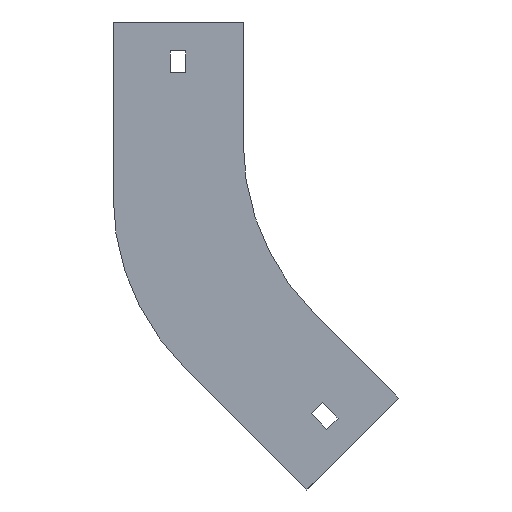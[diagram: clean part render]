
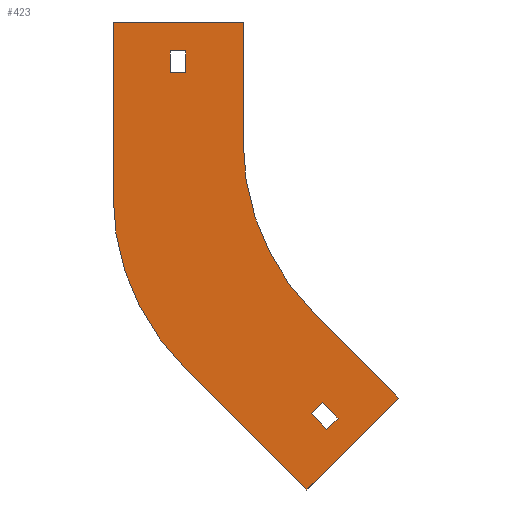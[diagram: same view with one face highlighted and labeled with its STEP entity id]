
A CAD part, front view. The second image highlights one B-rep face of the part: STEP entity #423.
In plain terms, the highlighted planar face has unit normal (0, -1, 0).
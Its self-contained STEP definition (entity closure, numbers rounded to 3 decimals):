
#4 = CARTESIAN_POINT ( 'NONE',  ( -130.25, 0., 29. ) ) ;
#8 = LINE ( 'NONE', #347, #936 ) ;
#25 = EDGE_CURVE ( 'NONE', #1284, #853, #1328, .T. ) ;
#27 = EDGE_CURVE ( 'NONE', #853, #913, #1342, .T. ) ;
#38 = CARTESIAN_POINT ( 'NONE',  ( -70.711, 0., -70.711 ) ) ;
#49 = VERTEX_POINT ( 'NONE', #688 ) ;
#66 = CARTESIAN_POINT ( 'NONE',  ( -54., 0., -22.368 ) ) ;
#90 = DIRECTION ( 'NONE',  ( 0., 0., -1. ) ) ;
#96 = LINE ( 'NONE', #532, #280 ) ;
#107 = DIRECTION ( 'NONE',  ( 0., -1., 0. ) ) ;
#110 = CARTESIAN_POINT ( 'NONE',  ( -130.25, 0., 29. ) ) ;
#118 = DIRECTION ( 'NONE',  ( 0., 0., -1. ) ) ;
#121 = ORIENTED_EDGE ( 'NONE', *, *, #403, .F. ) ;
#128 = LINE ( 'NONE', #681, #1025 ) ;
#154 = DIRECTION ( 'NONE',  ( 1., 0., 0. ) ) ;
#155 = CARTESIAN_POINT ( 'NONE',  ( -124.711, 0., -93.078 ) ) ;
#156 = VERTEX_POINT ( 'NONE', #1083 ) ;
#162 = AXIS2_PLACEMENT_3D ( 'NONE', #962, #425, #619 ) ;
#168 = VECTOR ( 'NONE', #485, 1000. ) ;
#183 = DIRECTION ( 'NONE',  ( 1., 0., 0. ) ) ;
#196 = ORIENTED_EDGE ( 'NONE', *, *, #210, .F. ) ;
#202 = CIRCLE ( 'NONE', #636, 100. ) ;
#210 = EDGE_CURVE ( 'NONE', #1107, #687, #8, .T. ) ;
#236 = CARTESIAN_POINT ( 'NONE',  ( -123.75, 0., 29. ) ) ;
#255 = FACE_BOUND ( 'NONE', #906, .T. ) ;
#260 = CARTESIAN_POINT ( 'NONE',  ( -73.539, 0., -144.25 ) ) ;
#280 = VECTOR ( 'NONE', #957, 1000. ) ;
#316 = ORIENTED_EDGE ( 'NONE', *, *, #1046, .T. ) ;
#332 = VERTEX_POINT ( 'NONE', #1274 ) ;
#341 = DIRECTION ( 'NONE',  ( 0., 0., 1. ) ) ;
#347 = CARTESIAN_POINT ( 'NONE',  ( -70.711, 0., -70.711 ) ) ;
#362 = DIRECTION ( 'NONE',  ( 0.707, 0., -0.707 ) ) ;
#371 = VERTEX_POINT ( 'NONE', #1073 ) ;
#376 = CARTESIAN_POINT ( 'NONE',  ( -71.595, 0., -112.607 ) ) ;
#383 = LINE ( 'NONE', #376, #168 ) ;
#399 = LINE ( 'NONE', #477, #758 ) ;
#403 = EDGE_CURVE ( 'NONE', #49, #371, #128, .T. ) ;
#408 = DIRECTION ( 'NONE',  ( 0., 0., 1. ) ) ;
#414 = VECTOR ( 'NONE', #1354, 1000. ) ;
#423 = ADVANCED_FACE ( 'NONE', ( #465, #552, #255 ), #868, .T. ) ;
#425 = DIRECTION ( 'NONE',  ( 0., -1., 0. ) ) ;
#441 = VERTEX_POINT ( 'NONE', #1098 ) ;
#444 = VECTOR ( 'NONE', #1101, 1000. ) ;
#445 = ORIENTED_EDGE ( 'NONE', *, *, #27, .F. ) ;
#447 = CARTESIAN_POINT ( 'NONE',  ( -123.75, 0., 38. ) ) ;
#449 = DIRECTION ( 'NONE',  ( 0., 0., 1. ) ) ;
#464 = ORIENTED_EDGE ( 'NONE', *, *, #849, .F. ) ;
#465 = FACE_BOUND ( 'NONE', #1047, .T. ) ;
#466 = CARTESIAN_POINT ( 'NONE',  ( -66.998, 0., -108.011 ) ) ;
#470 = ORIENTED_EDGE ( 'NONE', *, *, #1036, .F. ) ;
#477 = CARTESIAN_POINT ( 'NONE',  ( -154., 0., 50. ) ) ;
#484 = VECTOR ( 'NONE', #1319, 1000. ) ;
#485 = DIRECTION ( 'NONE',  ( 0.707, 0., -0.707 ) ) ;
#511 = LINE ( 'NONE', #852, #1362 ) ;
#512 = ORIENTED_EDGE ( 'NONE', *, *, #640, .F. ) ;
#514 = VERTEX_POINT ( 'NONE', #260 ) ;
#532 = CARTESIAN_POINT ( 'NONE',  ( -73.539, 0., -144.25 ) ) ;
#552 = FACE_OUTER_BOUND ( 'NONE', #620, .T. ) ;
#564 = CARTESIAN_POINT ( 'NONE',  ( 0., 0., 0. ) ) ;
#566 = CARTESIAN_POINT ( 'NONE',  ( -130.25, 0., 29. ) ) ;
#587 = VERTEX_POINT ( 'NONE', #838 ) ;
#619 = DIRECTION ( 'NONE',  ( 0., 0., -1. ) ) ;
#620 = EDGE_LOOP ( 'NONE', ( #791, #121, #1143, #1152, #512, #196, #1184, #464 ) ) ;
#625 = VECTOR ( 'NONE', #449, 1000. ) ;
#636 = AXIS2_PLACEMENT_3D ( 'NONE', #66, #845, #408 ) ;
#638 = EDGE_CURVE ( 'NONE', #514, #1139, #96, .T. ) ;
#640 = EDGE_CURVE ( 'NONE', #687, #514, #511, .T. ) ;
#641 = EDGE_CURVE ( 'NONE', #587, #708, #1175, .T. ) ;
#664 = LINE ( 'NONE', #566, #444 ) ;
#675 = EDGE_CURVE ( 'NONE', #939, #1107, #823, .T. ) ;
#681 = CARTESIAN_POINT ( 'NONE',  ( -154., 0., -22.368 ) ) ;
#687 = VERTEX_POINT ( 'NONE', #951 ) ;
#688 = CARTESIAN_POINT ( 'NONE',  ( -154., 0., -22.368 ) ) ;
#695 = DIRECTION ( 'NONE',  ( 0.707, 0., 0.707 ) ) ;
#699 = ORIENTED_EDGE ( 'NONE', *, *, #25, .F. ) ;
#708 = VERTEX_POINT ( 'NONE', #447 ) ;
#724 = EDGE_CURVE ( 'NONE', #708, #441, #969, .T. ) ;
#727 = CARTESIAN_POINT ( 'NONE',  ( -60.634, 0., -114.375 ) ) ;
#751 = LINE ( 'NONE', #1053, #1358 ) ;
#758 = VECTOR ( 'NONE', #154, 1000. ) ;
#772 = VECTOR ( 'NONE', #183, 1000. ) ;
#791 = ORIENTED_EDGE ( 'NONE', *, *, #1300, .F. ) ;
#795 = VERTEX_POINT ( 'NONE', #110 ) ;
#823 = CIRCLE ( 'NONE', #162, 100. ) ;
#829 = ORIENTED_EDGE ( 'NONE', *, *, #1180, .T. ) ;
#832 = DIRECTION ( 'NONE',  ( -0.707, 0., -0.707 ) ) ;
#838 = CARTESIAN_POINT ( 'NONE',  ( -130.25, 0., 38. ) ) ;
#843 = ORIENTED_EDGE ( 'NONE', *, *, #1341, .F. ) ;
#845 = DIRECTION ( 'NONE',  ( 0., 1., 0. ) ) ;
#849 = EDGE_CURVE ( 'NONE', #156, #939, #751, .T. ) ;
#852 = CARTESIAN_POINT ( 'NONE',  ( -35.355, 0., -106.066 ) ) ;
#853 = VERTEX_POINT ( 'NONE', #727 ) ;
#868 = PLANE ( 'NONE',  #1337 ) ;
#878 = EDGE_CURVE ( 'NONE', #1139, #49, #202, .T. ) ;
#898 = DIRECTION ( 'NONE',  ( 0., 0., -1. ) ) ;
#906 = EDGE_LOOP ( 'NONE', ( #699, #843, #470, #445 ) ) ;
#913 = VERTEX_POINT ( 'NONE', #1391 ) ;
#936 = VECTOR ( 'NONE', #362, 1000. ) ;
#939 = VERTEX_POINT ( 'NONE', #976 ) ;
#951 = CARTESIAN_POINT ( 'NONE',  ( -35.355, 0., -106.066 ) ) ;
#957 = DIRECTION ( 'NONE',  ( -0.707, 0., 0.707 ) ) ;
#962 = CARTESIAN_POINT ( 'NONE',  ( 0., 0., 0. ) ) ;
#969 = LINE ( 'NONE', #236, #1292 ) ;
#976 = CARTESIAN_POINT ( 'NONE',  ( -100., 0., 0. ) ) ;
#1025 = VECTOR ( 'NONE', #341, 1000. ) ;
#1036 = EDGE_CURVE ( 'NONE', #913, #332, #1196, .T. ) ;
#1046 = EDGE_CURVE ( 'NONE', #795, #587, #1097, .T. ) ;
#1047 = EDGE_LOOP ( 'NONE', ( #316, #1178, #1216, #829 ) ) ;
#1053 = CARTESIAN_POINT ( 'NONE',  ( -100., 0., 50. ) ) ;
#1058 = VECTOR ( 'NONE', #695, 1000. ) ;
#1073 = CARTESIAN_POINT ( 'NONE',  ( -154., 0., 50. ) ) ;
#1083 = CARTESIAN_POINT ( 'NONE',  ( -100., 0., 50. ) ) ;
#1097 = LINE ( 'NONE', #4, #625 ) ;
#1098 = CARTESIAN_POINT ( 'NONE',  ( -123.75, 0., 29. ) ) ;
#1101 = DIRECTION ( 'NONE',  ( -1., 0., 0. ) ) ;
#1107 = VERTEX_POINT ( 'NONE', #38 ) ;
#1132 = CARTESIAN_POINT ( 'NONE',  ( -65.231, 0., -118.971 ) ) ;
#1139 = VERTEX_POINT ( 'NONE', #155 ) ;
#1143 = ORIENTED_EDGE ( 'NONE', *, *, #878, .F. ) ;
#1152 = ORIENTED_EDGE ( 'NONE', *, *, #638, .F. ) ;
#1175 = LINE ( 'NONE', #1263, #772 ) ;
#1178 = ORIENTED_EDGE ( 'NONE', *, *, #641, .T. ) ;
#1180 = EDGE_CURVE ( 'NONE', #441, #795, #664, .T. ) ;
#1184 = ORIENTED_EDGE ( 'NONE', *, *, #675, .F. ) ;
#1196 = LINE ( 'NONE', #1201, #484 ) ;
#1201 = CARTESIAN_POINT ( 'NONE',  ( -71.595, 0., -112.607 ) ) ;
#1216 = ORIENTED_EDGE ( 'NONE', *, *, #724, .T. ) ;
#1222 = CARTESIAN_POINT ( 'NONE',  ( -65.231, 0., -118.971 ) ) ;
#1263 = CARTESIAN_POINT ( 'NONE',  ( -130.25, 0., 38. ) ) ;
#1274 = CARTESIAN_POINT ( 'NONE',  ( -71.595, 0., -112.607 ) ) ;
#1284 = VERTEX_POINT ( 'NONE', #1132 ) ;
#1292 = VECTOR ( 'NONE', #118, 1000. ) ;
#1300 = EDGE_CURVE ( 'NONE', #371, #156, #399, .T. ) ;
#1319 = DIRECTION ( 'NONE',  ( -0.707, 0., -0.707 ) ) ;
#1328 = LINE ( 'NONE', #1222, #1058 ) ;
#1337 = AXIS2_PLACEMENT_3D ( 'NONE', #564, #107, #898 ) ;
#1341 = EDGE_CURVE ( 'NONE', #332, #1284, #383, .T. ) ;
#1342 = LINE ( 'NONE', #466, #414 ) ;
#1354 = DIRECTION ( 'NONE',  ( -0.707, 0., 0.707 ) ) ;
#1358 = VECTOR ( 'NONE', #90, 1000. ) ;
#1362 = VECTOR ( 'NONE', #832, 1000. ) ;
#1391 = CARTESIAN_POINT ( 'NONE',  ( -66.998, 0., -108.011 ) ) ;
